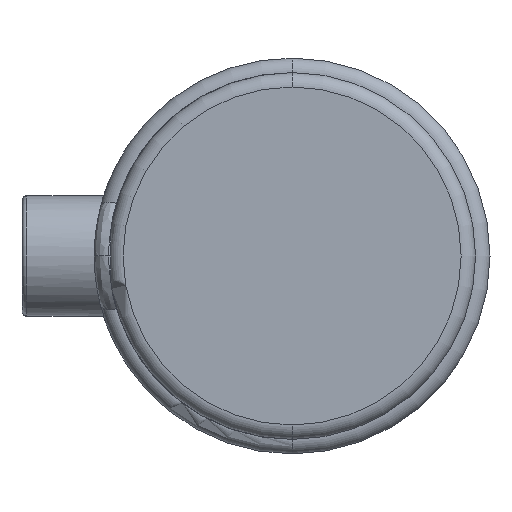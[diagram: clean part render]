
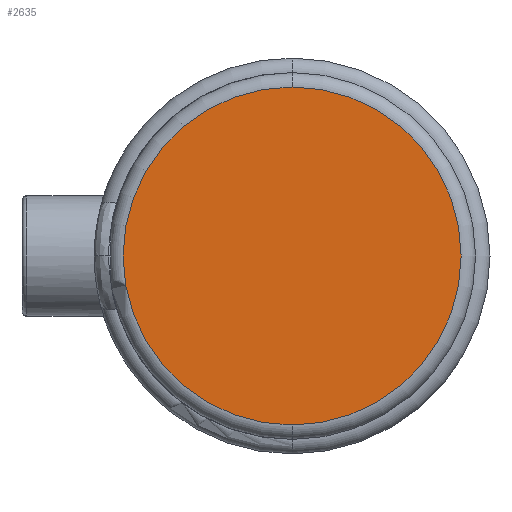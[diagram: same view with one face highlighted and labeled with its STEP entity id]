
A CAD part, left-side view. The second image highlights one B-rep face of the part: STEP entity #2635.
In plain terms, the highlighted planar face has unit normal (-1, 0, 0).
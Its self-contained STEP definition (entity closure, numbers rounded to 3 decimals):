
#116 = PLANE ( 'NONE',  #2510 ) ;
#562 = DIRECTION ( 'NONE',  ( -1., 0., 0. ) ) ;
#796 = EDGE_CURVE ( 'NONE', #1693, #1166, #2537, .T. ) ;
#987 = CARTESIAN_POINT ( 'NONE',  ( 0., 0., 0. ) ) ;
#1166 = VERTEX_POINT ( 'NONE', #2484 ) ;
#1405 = DIRECTION ( 'NONE',  ( -1., 0., 0. ) ) ;
#1693 = VERTEX_POINT ( 'NONE', #4379 ) ;
#2160 = FACE_OUTER_BOUND ( 'NONE', #4044, .T. ) ;
#2417 = EDGE_CURVE ( 'NONE', #1166, #1693, #2590, .T. ) ;
#2478 = CARTESIAN_POINT ( 'NONE',  ( 0., 0., 0. ) ) ;
#2484 = CARTESIAN_POINT ( 'NONE',  ( 0., 0., -35.1 ) ) ;
#2510 = AXIS2_PLACEMENT_3D ( 'NONE', #987, #562, #3703 ) ;
#2537 = CIRCLE ( 'NONE', #5166, 35.1 ) ;
#2590 = CIRCLE ( 'NONE', #4689, 35.1 ) ;
#2635 = ADVANCED_FACE ( 'NONE', ( #2160 ), #116, .T. ) ;
#2935 = DIRECTION ( 'NONE',  ( -1., 0., 0. ) ) ;
#3200 = ORIENTED_EDGE ( 'NONE', *, *, #2417, .T. ) ;
#3703 = DIRECTION ( 'NONE',  ( 0., 0., 1. ) ) ;
#4044 = EDGE_LOOP ( 'NONE', ( #5104, #3200 ) ) ;
#4072 = CARTESIAN_POINT ( 'NONE',  ( 0., 0., 0. ) ) ;
#4379 = CARTESIAN_POINT ( 'NONE',  ( 0., 0., 35.1 ) ) ;
#4515 = DIRECTION ( 'NONE',  ( 0., 0., 1. ) ) ;
#4689 = AXIS2_PLACEMENT_3D ( 'NONE', #4072, #1405, #4515 ) ;
#5104 = ORIENTED_EDGE ( 'NONE', *, *, #796, .T. ) ;
#5166 = AXIS2_PLACEMENT_3D ( 'NONE', #2478, #2935, #5506 ) ;
#5506 = DIRECTION ( 'NONE',  ( 0., 0., 1. ) ) ;
